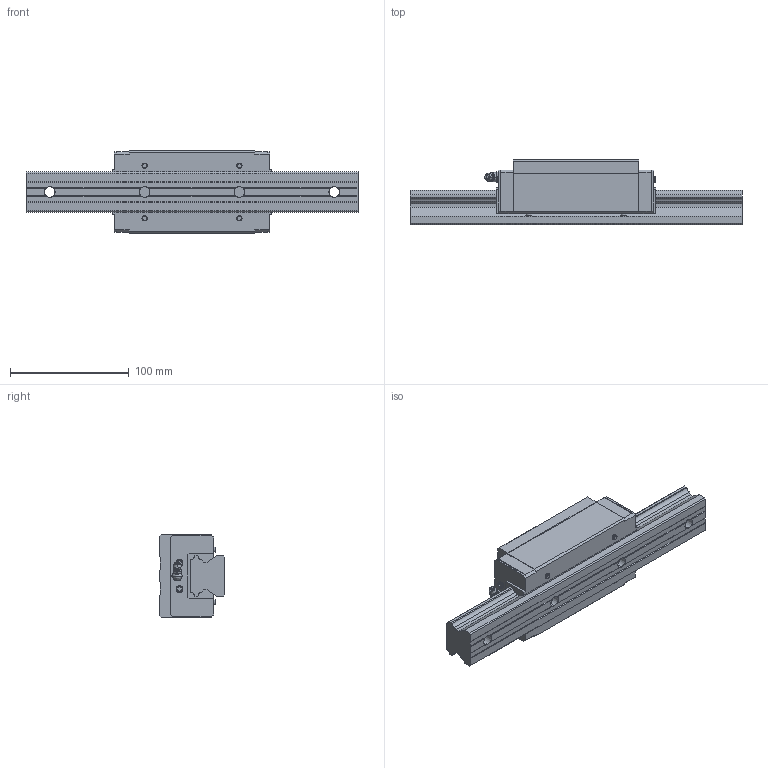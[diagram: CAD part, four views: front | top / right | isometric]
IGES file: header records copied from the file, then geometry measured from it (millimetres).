
Start section: SolidWorks IGES file using analytic representation for surfaces
Global section: file name: D:\Qsync\EOS Design B.V\Projecten\LM Systems\Models HSV\FINISHED\HSR35LRSSC.IGS; native system: SolidWorks 2016; preprocessor: SolidWorks 2016; author: EOS; date: 160329.132702; units: millimetre
Bounding box: 280 x 55 x 70 mm (x, y, z)
Surface area: 85061.9 mm2 (no closed solid volume)
Topology: 0 solids, 0 shells, 305 faces, 3166 edges, 3150 vertices
Faces by surface type: bspline 213, revolution 92
